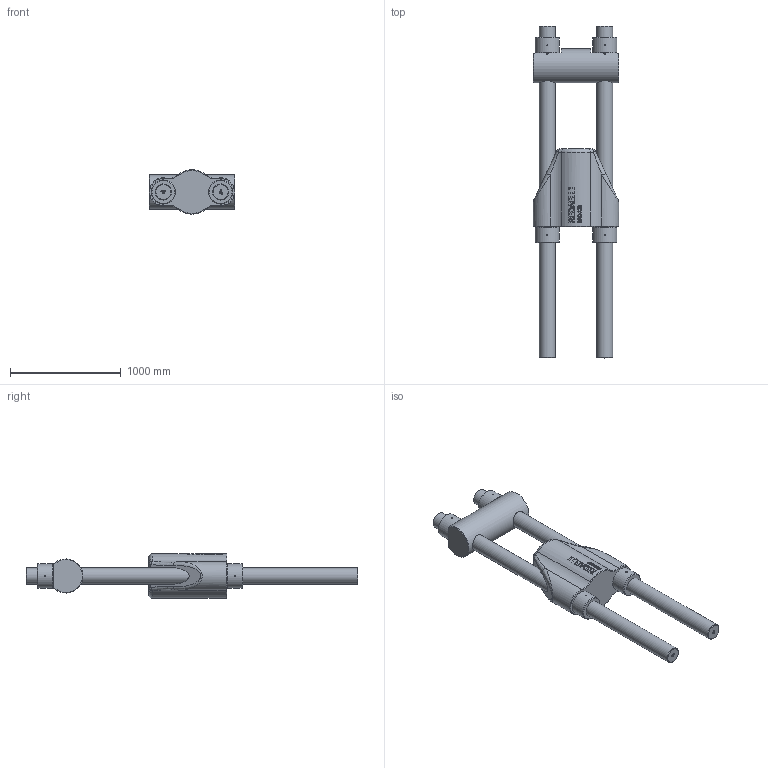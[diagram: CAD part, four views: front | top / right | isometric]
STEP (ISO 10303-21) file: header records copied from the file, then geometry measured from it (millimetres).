
FILE_DESCRIPTION(/* description */ (''),/* implementation_level */ '2;1');
FILE_NAME(/* name */ 'D:\Clienti\Redaelli (inventor)\BRC\STEP\Arrangemet\BRC128 72 111 0.stp',/* time_stamp */ '2021-05-08T08:45:00+02:00',/* author */ ('fabri'),/* organization */ (''),/* preprocessor_version */ 'ST-DEVELOPER v16.13',/* originating_system */ 'Autodesk Inventor 2018',/* authorisation */ '');
FILE_SCHEMA (('AUTOMOTIVE_DESIGN { 1 0 10303 214 3 1 1 }'));
Length unit declared in the file: millimetre
Products named in the file (5): BRC020 72 111 0; BRC020 71 112 0; BRC020 71 114 0_ROD; BRC020 71 113 0; BRC020 71 114 0_NUT
Assembly tree (8 placements, depth 2):
  BRC020 72 111 0
    BRC020 71 112 0
    BRC020 71 114 0_ROD  x2
    BRC020 71 113 0
    BRC020 71 114 0_NUT  x4
Bounding box: 774 x 3000 x 400 mm (x, y, z)
Volume: 268504192.5 mm3; surface area: 6549000.7 mm2
Topology: 8 solids, 8 shells, 1556 faces, 4190 edges, 2782 vertices
Faces by surface type: plane 765, bspline 667, cylinder 70, cone 30, torus 20, sphere 4
Full cylindrical faces by diameter (mm): 10 x16, 138.505 x4, 145 x2, 151 x4, 217.5 x4, 308 x1
Entity records: 31317 total; most frequent: CARTESIAN_POINT 12155, ORIENTED_EDGE 4538, DIRECTION 2735, EDGE_CURVE 2269, VERTEX_POINT 1512, LINE 1285, VECTOR 1285, EDGE_LOOP 965
